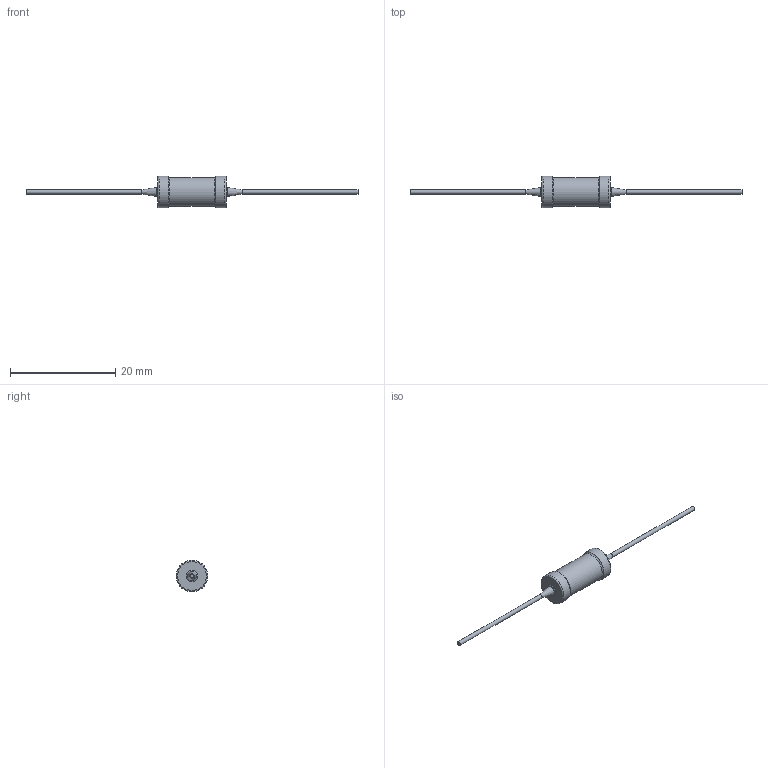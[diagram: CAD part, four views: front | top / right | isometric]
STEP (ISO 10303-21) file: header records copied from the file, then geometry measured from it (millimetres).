
FILE_DESCRIPTION(/* description */ (''),/* implementation_level */ '2;1');
FILE_NAME(/* name */ '\\WSSE03\home\klepschi\Desktop\Elektrowerkstatt - T23 - T21\Inventor - AutoCAD\Joshi Mohit\AC03-CS.stp',/* time_stamp */ '2017-03-29T14:16:10+02:00',/* author */ ('klepschi'),/* organization */ (''),/* preprocessor_version */ 'ST-DEVELOPER v15.6',/* originating_system */ 'Autodesk Inventor 2015',/* authorisation */ '');
FILE_SCHEMA (('AUTOMOTIVE_DESIGN { 1 0 10303 214 3 1 1 }'));
Length unit declared in the file: millimetre
Products named in the file (1): AC03-CS
Bounding box: 63 x 6 x 6 mm (x, y, z)
Volume: 357.5 mm3; surface area: 419.3 mm2
Topology: 1 solids, 1 shells, 17 faces, 29 edges, 16 vertices
Faces by surface type: torus 6, cylinder 5, plane 4, cone 2
Full cylindrical faces by diameter (mm): 0.8 x2, 5.5 x1, 6 x2
Entity records: 378 total; most frequent: DIRECTION 68, CARTESIAN_POINT 50, AXIS2_PLACEMENT_3D 34, EDGE_LOOP 32, ORIENTED_EDGE 32, FACE_OUTER_BOUND 17, ADVANCED_FACE 17, CIRCLE 16
